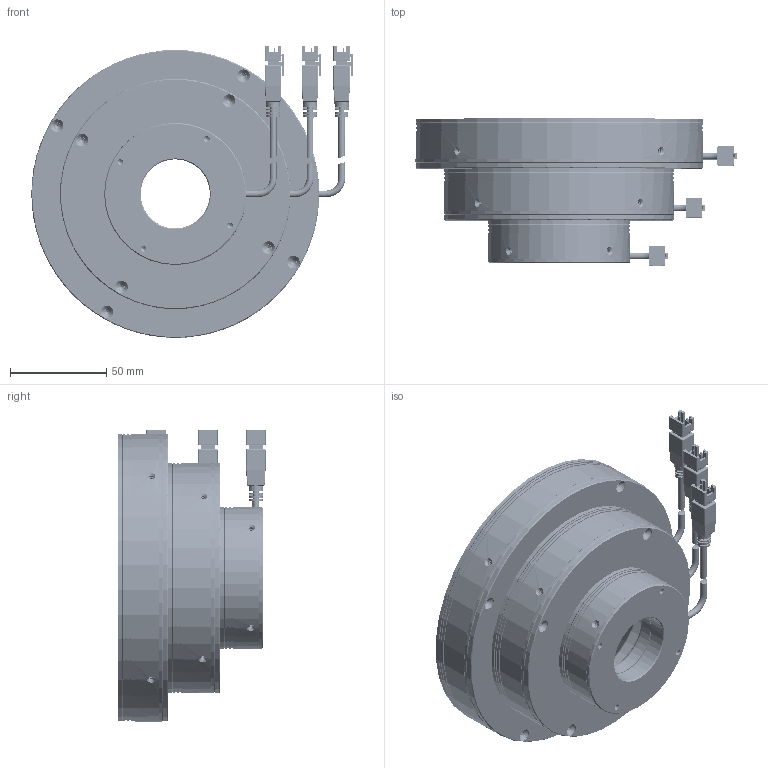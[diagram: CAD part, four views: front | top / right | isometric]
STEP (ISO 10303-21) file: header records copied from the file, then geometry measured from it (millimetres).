
FILE_DESCRIPTION (( 'STEP AP214' ), '1' );
FILE_NAME ('AOI -150.STEP', '2021-04-26T01:56:12', ( '微软用户' ), ( '微软中国' ), 'SwSTEP 2.0', 'SolidWorks 2015', '' );
FILE_SCHEMA (( 'AUTOMOTIVE_DESIGN' ));
Length unit declared in the file: millimetre
Products named in the file (23): AL3-150-30-002 遠倛嫖埭遠裔; 150詁樓啣; AL3-15030-001-V1遠倛嫖埭菁釱; AL2-74-70; AL2-74-70-PCBA; AOI -150; AL2-7470-101-V1PCB遠倛嫖埭; AL2-7470-003-V1遠倛嫖埭鞦扞啣; AL2-7470-002 遠倛嫖埭遠裔; AL2-7470-001-V1遠倛嫖埭菁釱; AL3-120-45; AL3-120-45-PCBA; AL3-13045-101-V1PCB遠倛嫖埭; AL3-12045-003-V1遠倛嫖埭鞦扞啣; AL3-120-45-002 遠倛嫖埭遠裔; AL3-12045-001-V1遠倛嫖埭菁釱; AL3-150-30; 光源线（303060001）; AL3-150-30-PCBA; 脣璃腑紩; AL3-15030-101-V1PCB遠倛嫖埭; AL3-15030-003-V1遠倛嫖埭鞦扞啣; 150詁樓啣-02
Assembly tree (313 placements, depth 4):
  AOI -150
    AL3-150-30
      AL3-15030-001-V1遠倛嫖埭菁釱
      AL3-150-30-002 遠倛嫖埭遠裔
      AL3-15030-003-V1遠倛嫖埭鞦扞啣
      AL3-150-30-PCBA
        AL3-15030-101-V1PCB遠倛嫖埭
        脣璃腑紩  x87
      光源线（303060001）
    AL3-120-45
      AL3-12045-001-V1遠倛嫖埭菁釱
      AL3-120-45-002 遠倛嫖埭遠裔
      AL3-12045-003-V1遠倛嫖埭鞦扞啣
      AL3-120-45-PCBA
        AL3-13045-101-V1PCB遠倛嫖埭
        脣璃腑紩  x116
      光源线（303060001）
    AL2-74-70
      AL2-7470-001-V1遠倛嫖埭菁釱
      AL2-7470-002 遠倛嫖埭遠裔
      AL2-7470-003-V1遠倛嫖埭鞦扞啣
      AL2-74-70-PCBA
        AL2-7470-101-V1PCB遠倛嫖埭
        脣璃腑紩  x87
      光源线（303060001）
    150詁樓啣
    150詁樓啣-02
Bounding box: 167.45 x 76.56 x 152 mm (x, y, z)
Volume: 294918.7 mm3; surface area: 268350.9 mm2
Topology: 313 solids, 313 shells, 5857 faces, 13441 edges, 8454 vertices
Faces by surface type: cylinder 3047, plane 1842, sphere 616, cone 289, bspline 33, torus 30
Entity records: 34265 total; most frequent: CARTESIAN_POINT 9710, DIRECTION 5192, ORIENTED_EDGE 4150, AXIS2_PLACEMENT_3D 2126, EDGE_CURVE 2075, VERTEX_POINT 1253, EDGE_LOOP 1038, VECTOR 940
